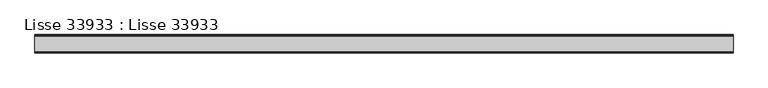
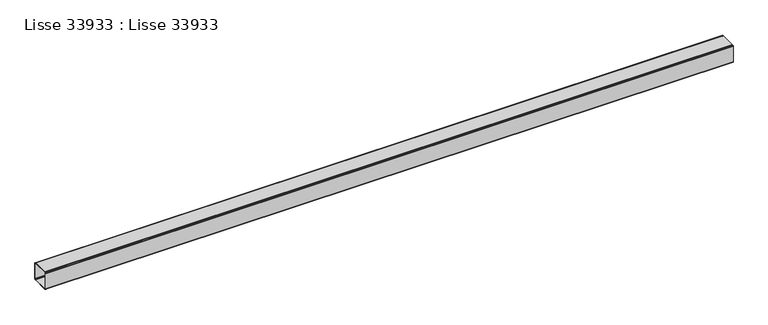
"""IFC4 building model written with IfcOpenShell, lengths in millimetres: beam geometry, Lisse 33933 : Lisse 33933."""

from ifc_helpers import new_model, si_unit, frame, origin, place, context, project, spatial, polyline, outline, extrude, source, transform, mapped, element, save


def lisse_33933_lisse_33933_85fa8269(model_context):
    return source(origin(), model_context, "Body", "SweptSolid", [
        extrude(outline(polyline([(-29093.45, 8322.7356589), (-29005.45, 8322.7356589), (-29002.45, 8321.9318113), (-29000.2538476, 8319.7356589), (-28999.45, 8316.7356589), (-28999.45, 8228.7356589), (-29000.2538476, 8225.7356589), (-29002.45, 8223.5395065), (-29005.45, 8222.7356589), (-29093.45, 8222.7356589), (-29096.45, 8223.5395065), (-29098.6461524, 8225.7356589), (-29099.45, 8228.7356589), (-29099.45, 8316.7356589), (-29098.6461524, 8319.7356589), (-29096.45, 8321.9318113), (-29093.45, 8322.7356589)]), holes=[polyline([(-29095.45, 8314.7356589), (-29095.45, 8230.7356589), (-29094.9141016, 8228.7356589), (-29093.45, 8227.2715573), (-29091.45, 8226.7356589), (-29007.45, 8226.7356589), (-29005.45, 8227.2715573), (-29003.9858984, 8228.7356589), (-29003.45, 8230.7356589), (-29003.45, 8314.7356589), (-29003.9858984, 8316.7356589), (-29005.45, 8318.1997605), (-29007.45, 8318.7356589), (-29091.45, 8318.7356589), (-29093.45, 8318.1997605), (-29094.9141016, 8316.7356589), (-29095.45, 8314.7356589)])]), frame((7664.9999999, 0.0, 0.0), z_axis=(1.0, 0.0, 0.0), x_axis=(0.0, 1.0, 0.0)), (0.0, 0.0, 1.0), 3772.2815708),
    ])


if __name__ == "__main__":
    model = new_model("IFC4")
    model_context = context("Model", 3, world=origin())
    ifc_project = project(units=[si_unit("LENGTHUNIT", "METRE", prefix="MILLI")], contexts=[model_context])
    site = spatial("IfcSite", under=ifc_project)
    building = spatial("IfcBuilding", under=site)
    placement = place(None, origin())
    lisse_33933_lisse_33933_shape = lisse_33933_lisse_33933_85fa8269(model_context)
    element("IfcBeam", 1, ObjectType="Lisse 33933 : Lisse 33933", at=placement, inside=building, context=model_context, shape_type="MappedRepresentation", body=[
        mapped(lisse_33933_lisse_33933_shape, transform((0.0, 0.0, 0.0), x_axis=(1.0, 0.0, 0.0), y_axis=(0.0, 1.0, 0.0), z_axis=(0.0, 0.0, 1.0))),
    ])
    save(model, "model.ifc")
